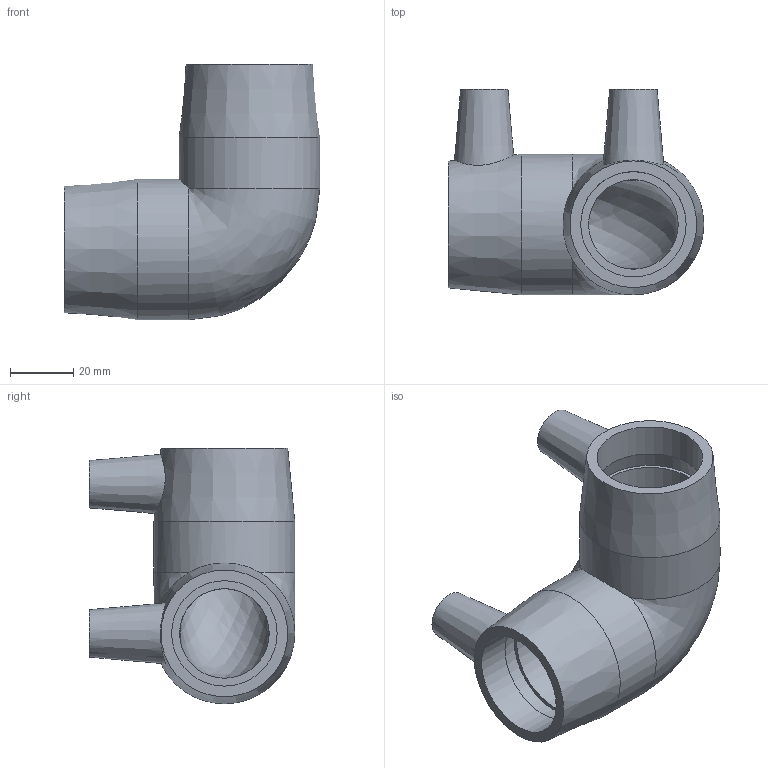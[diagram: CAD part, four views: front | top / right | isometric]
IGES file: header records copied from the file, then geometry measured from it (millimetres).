
Global section: file name: 5905B003010.ipt; native system: Autodesk Inventor 2019; preprocessor: unknown; author: KIM; date: 20210830.100954; units: inch
Bounding box: 80.71 x 64.9 x 80.71 mm (x, y, z)
Volume: 82510.4 mm3; surface area: 30672.7 mm2
Topology: 1 solids, 1 shells, 30 faces, 68 edges, 46 vertices
Faces by surface type: plane 12, revolution 9, cylinder 4, cone 4, bspline 1
Full cylindrical faces by diameter (mm): 4 x2, 44.45 x2
